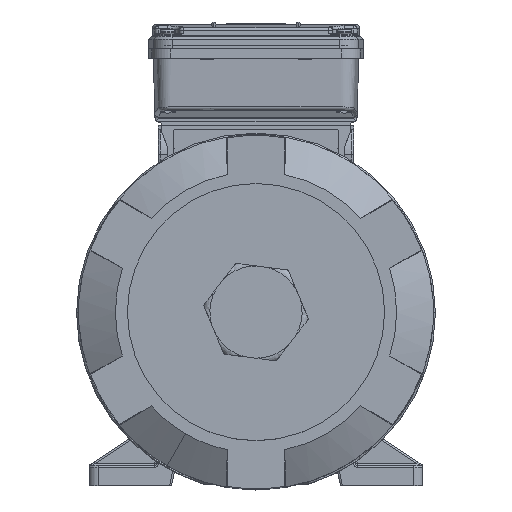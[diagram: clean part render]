
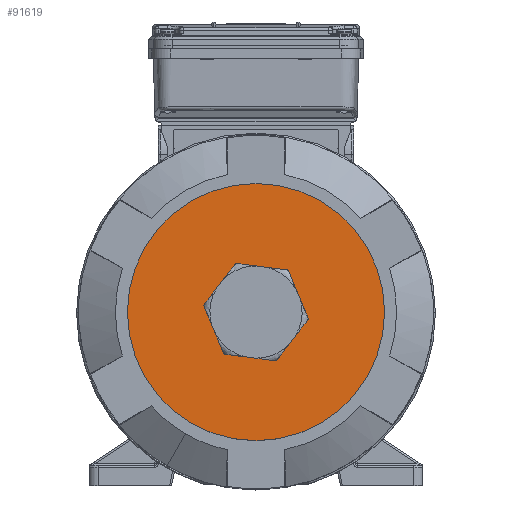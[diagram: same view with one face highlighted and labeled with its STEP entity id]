
A CAD part, top view. The second image highlights one B-rep face of the part: STEP entity #91619.
In plain terms, the highlighted planar face has unit normal (0, 0, 1) as drawn and (1, 0, 0) by its records, which use the part's own axes.
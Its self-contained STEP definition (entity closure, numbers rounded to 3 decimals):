
#350 = DIRECTION ( 'NONE',  ( -1., 0., 0. ) ) ;
#5588 = DIRECTION ( 'NONE',  ( 0., 0., -1. ) ) ;
#7574 = CARTESIAN_POINT ( 'NONE',  ( 121.5, 0., 0. ) ) ;
#10296 = CIRCLE ( 'NONE', #93995, 67. ) ;
#14875 = VERTEX_POINT ( 'NONE', #35925 ) ;
#20026 = DIRECTION ( 'NONE',  ( 0., 0., -1. ) ) ;
#20615 = ORIENTED_EDGE ( 'NONE', *, *, #150579, .F. ) ;
#22375 = EDGE_CURVE ( 'NONE', #127971, #127398, #10296, .T. ) ;
#23138 = CIRCLE ( 'NONE', #142686, 19.25 ) ;
#35925 = CARTESIAN_POINT ( 'NONE',  ( 121.5, 0., 19.25 ) ) ;
#47669 = CARTESIAN_POINT ( 'NONE',  ( 121.5, 0., -19.25 ) ) ;
#50808 = AXIS2_PLACEMENT_3D ( 'NONE', #74518, #350, #86984 ) ;
#52000 = CARTESIAN_POINT ( 'NONE',  ( 121.5, 0., 0. ) ) ;
#53717 = DIRECTION ( 'NONE',  ( -1., 0., 0. ) ) ;
#54654 = FACE_OUTER_BOUND ( 'NONE', #72554, .T. ) ;
#64432 = DIRECTION ( 'NONE',  ( 0., 0., 1. ) ) ;
#70063 = CIRCLE ( 'NONE', #114079, 19.25 ) ;
#72554 = EDGE_LOOP ( 'NONE', ( #84472, #133530 ) ) ;
#72715 = EDGE_CURVE ( 'NONE', #127398, #127971, #152495, .T. ) ;
#74518 = CARTESIAN_POINT ( 'NONE',  ( 121.5, 0., 0. ) ) ;
#78032 = PLANE ( 'NONE',  #127001 ) ;
#79789 = DIRECTION ( 'NONE',  ( 1., 0., 0. ) ) ;
#79803 = FACE_BOUND ( 'NONE', #99487, .T. ) ;
#84472 = ORIENTED_EDGE ( 'NONE', *, *, #72715, .F. ) ;
#86984 = DIRECTION ( 'NONE',  ( 0., 0., 1. ) ) ;
#91619 = ADVANCED_FACE ( 'NONE', ( #79803, #54654 ), #78032, .F. ) ;
#93995 = AXIS2_PLACEMENT_3D ( 'NONE', #52000, #138537, #64432 ) ;
#94190 = DIRECTION ( 'NONE',  ( 1., 0., 0. ) ) ;
#99487 = EDGE_LOOP ( 'NONE', ( #130566, #20615 ) ) ;
#101356 = CARTESIAN_POINT ( 'NONE',  ( 121.5, 0., 67. ) ) ;
#112834 = CARTESIAN_POINT ( 'NONE',  ( 121.5, 0., -67. ) ) ;
#114079 = AXIS2_PLACEMENT_3D ( 'NONE', #153836, #79789, #5588 ) ;
#117393 = EDGE_CURVE ( 'NONE', #148770, #14875, #23138, .T. ) ;
#127001 = AXIS2_PLACEMENT_3D ( 'NONE', #127753, #53717, #140234 ) ;
#127398 = VERTEX_POINT ( 'NONE', #101356 ) ;
#127753 = CARTESIAN_POINT ( 'NONE',  ( 121.5, 25.4, 0. ) ) ;
#127971 = VERTEX_POINT ( 'NONE', #112834 ) ;
#130566 = ORIENTED_EDGE ( 'NONE', *, *, #117393, .F. ) ;
#133530 = ORIENTED_EDGE ( 'NONE', *, *, #22375, .F. ) ;
#138537 = DIRECTION ( 'NONE',  ( -1., 0., 0. ) ) ;
#140234 = DIRECTION ( 'NONE',  ( 0., 0., 1. ) ) ;
#142686 = AXIS2_PLACEMENT_3D ( 'NONE', #7574, #94190, #20026 ) ;
#148770 = VERTEX_POINT ( 'NONE', #47669 ) ;
#150579 = EDGE_CURVE ( 'NONE', #14875, #148770, #70063, .T. ) ;
#152495 = CIRCLE ( 'NONE', #50808, 67. ) ;
#153836 = CARTESIAN_POINT ( 'NONE',  ( 121.5, 0., 0. ) ) ;
